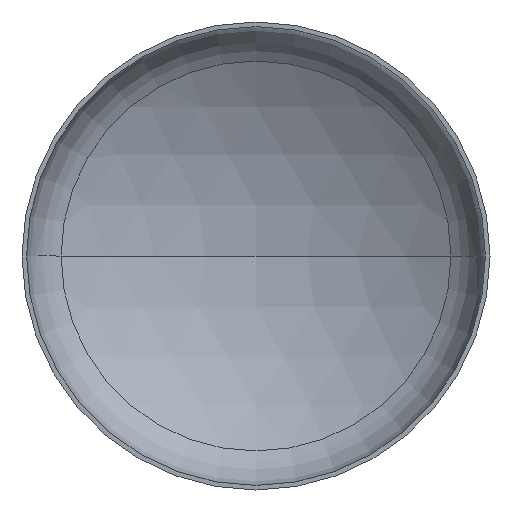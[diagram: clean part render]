
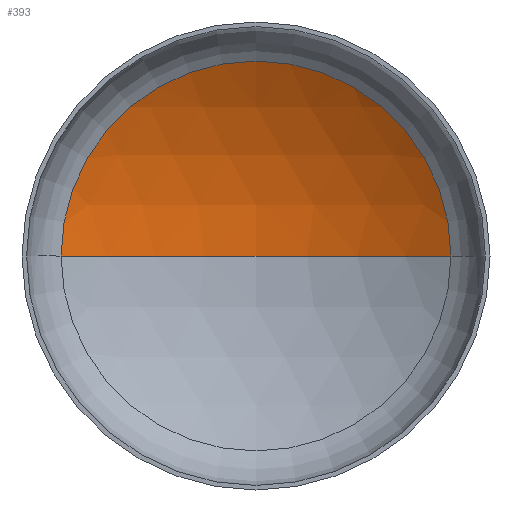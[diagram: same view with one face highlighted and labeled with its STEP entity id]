
A CAD part, front view. The second image highlights one B-rep face of the part: STEP entity #393.
In plain terms, the highlighted spherical face has radius 6400 mm.
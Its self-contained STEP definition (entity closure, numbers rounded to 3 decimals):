
#15 = ORIENTED_EDGE ( 'NONE', *, *, #242, .T. ) ;
#21 = DIRECTION ( 'NONE',  ( 1., 0., 0. ) ) ;
#24 = DIRECTION ( 'NONE',  ( 0., -1., 0. ) ) ;
#37 = AXIS2_PLACEMENT_3D ( 'NONE', #94, #24, #21 ) ;
#64 = CARTESIAN_POINT ( 'NONE',  ( 0., 2106.154, 0. ) ) ;
#70 = DIRECTION ( 'NONE',  ( -1., 0., 0. ) ) ;
#77 = CARTESIAN_POINT ( 'NONE',  ( 0., -4293.846, 0. ) ) ;
#79 = DIRECTION ( 'NONE',  ( 0., 0., -1. ) ) ;
#84 = CARTESIAN_POINT ( 'NONE',  ( -3332.456, 1170.103, 0. ) ) ;
#85 = CIRCLE ( 'NONE', #195, 6400. ) ;
#94 = CARTESIAN_POINT ( 'NONE',  ( 0., 1170.103, 0. ) ) ;
#95 = CIRCLE ( 'NONE', #129, 6400. ) ;
#110 = DIRECTION ( 'NONE',  ( 0., 0., -1. ) ) ;
#129 = AXIS2_PLACEMENT_3D ( 'NONE', #77, #79, #70 ) ;
#132 = VERTEX_POINT ( 'NONE', #248 ) ;
#171 = DIRECTION ( 'NONE',  ( 1., 0., 0. ) ) ;
#187 = VERTEX_POINT ( 'NONE', #64 ) ;
#195 = AXIS2_PLACEMENT_3D ( 'NONE', #258, #401, #171 ) ;
#202 = ORIENTED_EDGE ( 'NONE', *, *, #295, .T. ) ;
#242 = EDGE_CURVE ( 'NONE', #132, #339, #351, .T. ) ;
#248 = CARTESIAN_POINT ( 'NONE',  ( 3332.456, 1170.103, 0. ) ) ;
#258 = CARTESIAN_POINT ( 'NONE',  ( 0., -4293.846, 0. ) ) ;
#286 = EDGE_LOOP ( 'NONE', ( #399, #202, #15 ) ) ;
#295 = EDGE_CURVE ( 'NONE', #187, #132, #95, .T. ) ;
#305 = CARTESIAN_POINT ( 'NONE',  ( 0., -4293.846, 0. ) ) ;
#311 = SPHERICAL_SURFACE ( 'NONE', #389, 6400. ) ;
#314 = EDGE_CURVE ( 'NONE', #187, #339, #85, .T. ) ;
#339 = VERTEX_POINT ( 'NONE', #84 ) ;
#351 = CIRCLE ( 'NONE', #37, 3332.456 ) ;
#355 = DIRECTION ( 'NONE',  ( -1., 0., 0. ) ) ;
#381 = FACE_OUTER_BOUND ( 'NONE', #286, .T. ) ;
#389 = AXIS2_PLACEMENT_3D ( 'NONE', #305, #110, #355 ) ;
#393 = ADVANCED_FACE ( 'NONE', ( #381 ), #311, .F. ) ;
#399 = ORIENTED_EDGE ( 'NONE', *, *, #314, .F. ) ;
#401 = DIRECTION ( 'NONE',  ( 0., 0., 1. ) ) ;
